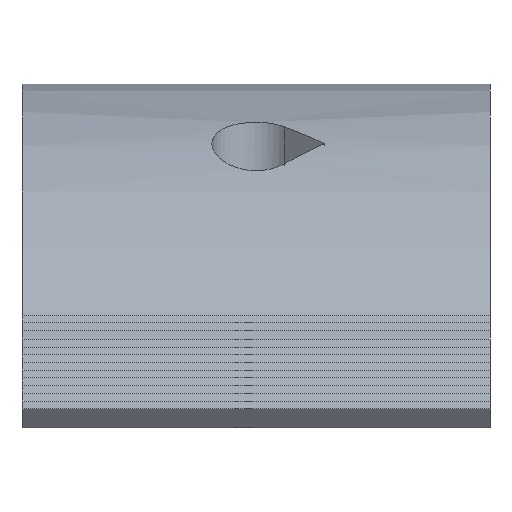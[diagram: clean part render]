
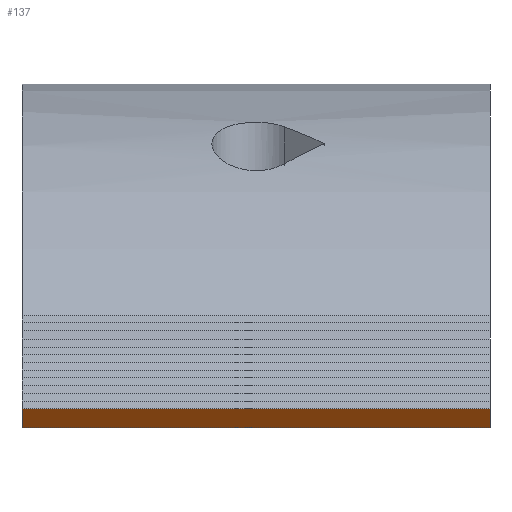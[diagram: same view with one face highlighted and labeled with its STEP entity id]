
A CAD part, front view. The second image highlights one B-rep face of the part: STEP entity #137.
In plain terms, the highlighted planar face has unit normal (0, -0.342, -0.94).
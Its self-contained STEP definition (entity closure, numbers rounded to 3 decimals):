
#22 = VERTEX_POINT('',#23);
#23 = CARTESIAN_POINT('',(252.,-17.459,6.355));
#32 = PLANE('',#33);
#33 = AXIS2_PLACEMENT_3D('',#34,#35,#36);
#34 = CARTESIAN_POINT('',(256.5,-17.459,6.355));
#35 = DIRECTION('',(0.,0.937,-0.35));
#36 = DIRECTION('',(0.,0.35,0.937));
#44 = PLANE('',#45);
#45 = AXIS2_PLACEMENT_3D('',#46,#47,#48);
#46 = CARTESIAN_POINT('',(252.,-17.459,6.355));
#47 = DIRECTION('',(1.,0.,0.));
#48 = DIRECTION('',(-0.,1.,0.));
#85 = VERTEX_POINT('',#86);
#86 = CARTESIAN_POINT('',(270.,-17.459,6.355));
#100 = PLANE('',#101);
#101 = AXIS2_PLACEMENT_3D('',#102,#103,#104);
#102 = CARTESIAN_POINT('',(270.,-17.459,6.355));
#103 = DIRECTION('',(1.,0.,0.));
#104 = DIRECTION('',(-0.,1.,0.));
#112 = EDGE_CURVE('',#22,#85,#113,.T.);
#113 = SURFACE_CURVE('',#114,(#118,#125),.PCURVE_S1.);
#114 = LINE('',#115,#116);
#115 = CARTESIAN_POINT('',(252.,-17.459,6.355));
#116 = VECTOR('',#117,1.);
#117 = DIRECTION('',(1.,0.,0.));
#118 = PCURVE('',#32,#119);
#119 = DEFINITIONAL_REPRESENTATION('',(#120),#124);
#120 = LINE('',#121,#122);
#121 = CARTESIAN_POINT('',(0.,-4.5));
#122 = VECTOR('',#123,1.);
#123 = DIRECTION('',(0.,1.));
#124 = ( GEOMETRIC_REPRESENTATION_CONTEXT(2) 
PARAMETRIC_REPRESENTATION_CONTEXT() REPRESENTATION_CONTEXT('2D SPACE',''
  ) );
#125 = PCURVE('',#126,#131);
#126 = PLANE('',#127);
#127 = AXIS2_PLACEMENT_3D('',#128,#129,#130);
#128 = CARTESIAN_POINT('',(256.5,-15.458,5.626));
#129 = DIRECTION('',(-0.,0.342,0.94));
#130 = DIRECTION('',(0.,-0.94,0.342));
#131 = DEFINITIONAL_REPRESENTATION('',(#132),#136);
#132 = LINE('',#133,#134);
#133 = CARTESIAN_POINT('',(2.13,-4.5));
#134 = VECTOR('',#135,1.);
#135 = DIRECTION('',(0.,1.));
#136 = ( GEOMETRIC_REPRESENTATION_CONTEXT(2) 
PARAMETRIC_REPRESENTATION_CONTEXT() REPRESENTATION_CONTEXT('2D SPACE',''
  ) );
#137 = ADVANCED_FACE('',(#138),#126,.F.);
#138 = FACE_BOUND('',#139,.F.);
#139 = EDGE_LOOP('',(#140,#163,#164,#187));
#140 = ORIENTED_EDGE('',*,*,#141,.T.);
#141 = EDGE_CURVE('',#142,#22,#144,.T.);
#142 = VERTEX_POINT('',#143);
#143 = CARTESIAN_POINT('',(252.,-15.458,5.626));
#144 = SURFACE_CURVE('',#145,(#149,#156),.PCURVE_S1.);
#145 = LINE('',#146,#147);
#146 = CARTESIAN_POINT('',(252.,-15.458,5.626));
#147 = VECTOR('',#148,1.);
#148 = DIRECTION('',(0.,-0.94,0.342));
#149 = PCURVE('',#126,#150);
#150 = DEFINITIONAL_REPRESENTATION('',(#151),#155);
#151 = LINE('',#152,#153);
#152 = CARTESIAN_POINT('',(0.,-4.5));
#153 = VECTOR('',#154,1.);
#154 = DIRECTION('',(1.,0.));
#155 = ( GEOMETRIC_REPRESENTATION_CONTEXT(2) 
PARAMETRIC_REPRESENTATION_CONTEXT() REPRESENTATION_CONTEXT('2D SPACE',''
  ) );
#156 = PCURVE('',#44,#157);
#157 = DEFINITIONAL_REPRESENTATION('',(#158),#162);
#158 = LINE('',#159,#160);
#159 = CARTESIAN_POINT('',(2.002,-0.729));
#160 = VECTOR('',#161,1.);
#161 = DIRECTION('',(-0.94,0.342));
#162 = ( GEOMETRIC_REPRESENTATION_CONTEXT(2) 
PARAMETRIC_REPRESENTATION_CONTEXT() REPRESENTATION_CONTEXT('2D SPACE',''
  ) );
#163 = ORIENTED_EDGE('',*,*,#112,.T.);
#164 = ORIENTED_EDGE('',*,*,#165,.F.);
#165 = EDGE_CURVE('',#166,#85,#168,.T.);
#166 = VERTEX_POINT('',#167);
#167 = CARTESIAN_POINT('',(270.,-15.458,5.626));
#168 = SURFACE_CURVE('',#169,(#173,#180),.PCURVE_S1.);
#169 = LINE('',#170,#171);
#170 = CARTESIAN_POINT('',(270.,-15.458,5.626));
#171 = VECTOR('',#172,1.);
#172 = DIRECTION('',(0.,-0.94,0.342));
#173 = PCURVE('',#126,#174);
#174 = DEFINITIONAL_REPRESENTATION('',(#175),#179);
#175 = LINE('',#176,#177);
#176 = CARTESIAN_POINT('',(0.,13.5));
#177 = VECTOR('',#178,1.);
#178 = DIRECTION('',(1.,0.));
#179 = ( GEOMETRIC_REPRESENTATION_CONTEXT(2) 
PARAMETRIC_REPRESENTATION_CONTEXT() REPRESENTATION_CONTEXT('2D SPACE',''
  ) );
#180 = PCURVE('',#100,#181);
#181 = DEFINITIONAL_REPRESENTATION('',(#182),#186);
#182 = LINE('',#183,#184);
#183 = CARTESIAN_POINT('',(2.002,-0.729));
#184 = VECTOR('',#185,1.);
#185 = DIRECTION('',(-0.94,0.342));
#186 = ( GEOMETRIC_REPRESENTATION_CONTEXT(2) 
PARAMETRIC_REPRESENTATION_CONTEXT() REPRESENTATION_CONTEXT('2D SPACE',''
  ) );
#187 = ORIENTED_EDGE('',*,*,#188,.F.);
#188 = EDGE_CURVE('',#142,#166,#189,.T.);
#189 = SURFACE_CURVE('',#190,(#194,#201),.PCURVE_S1.);
#190 = LINE('',#191,#192);
#191 = CARTESIAN_POINT('',(252.,-15.458,5.626));
#192 = VECTOR('',#193,1.);
#193 = DIRECTION('',(1.,0.,0.));
#194 = PCURVE('',#126,#195);
#195 = DEFINITIONAL_REPRESENTATION('',(#196),#200);
#196 = LINE('',#197,#198);
#197 = CARTESIAN_POINT('',(0.,-4.5));
#198 = VECTOR('',#199,1.);
#199 = DIRECTION('',(0.,1.));
#200 = ( GEOMETRIC_REPRESENTATION_CONTEXT(2) 
PARAMETRIC_REPRESENTATION_CONTEXT() REPRESENTATION_CONTEXT('2D SPACE',''
  ) );
#201 = PCURVE('',#202,#207);
#202 = PLANE('',#203);
#203 = AXIS2_PLACEMENT_3D('',#204,#205,#206);
#204 = CARTESIAN_POINT('',(256.5,-15.357,5.895));
#205 = DIRECTION('',(0.,-0.937,0.35));
#206 = DIRECTION('',(0.,-0.35,-0.937));
#207 = DEFINITIONAL_REPRESENTATION('',(#208),#212);
#208 = LINE('',#209,#210);
#209 = CARTESIAN_POINT('',(0.287,-4.5));
#210 = VECTOR('',#211,1.);
#211 = DIRECTION('',(0.,1.));
#212 = ( GEOMETRIC_REPRESENTATION_CONTEXT(2) 
PARAMETRIC_REPRESENTATION_CONTEXT() REPRESENTATION_CONTEXT('2D SPACE',''
  ) );
